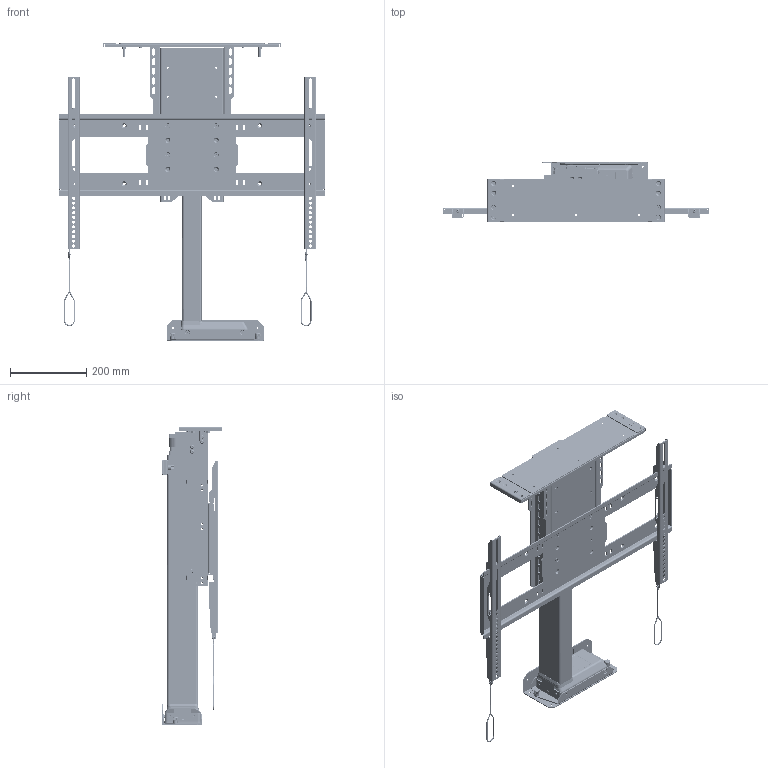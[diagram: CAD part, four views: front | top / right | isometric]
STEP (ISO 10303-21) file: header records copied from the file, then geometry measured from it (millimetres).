
FILE_DESCRIPTION(/* description */ ('STEP AP242','CAx-IF Rec.Pracs.---Representation and Presentation of Product Manufacturing Information (PMI)---4.0---2014-10-13','CAx-IF Rec.Pracs.---3D Tessellated Geometry---0.4---2014-09-14','2;1'),/* implementation_level */ '2;1');
FILE_NAME(/* name */ '63effb74e841dc2814847d16',/* time_stamp */ '2023-02-17T22:11:05+00:00',/* author */ (''),/* organization */ (''),/* preprocessor_version */ 'ST-DEVELOPER v18.102',/* originating_system */ ' ',/* authorisation */ ' ');
FILE_SCHEMA (('AP242_MANAGED_MODEL_BASED_3D_ENGINEERING_MIM_LF { 1 0 10303 442 1 1 4 }'));
Products named in the file (60): L-65/s; Hex socket countersunk head screw M6x1 x 12; Socket button head screw M6x1 x 12; WDS8151-215; Universal Swivel Master Assembly <1>; Socket button head screw M6x1 x 10; SW-NE-005 - SWIVEL TOP PLATE; NEX-SW-001 - DL16 SWIVEL BOTTOM SPACER; SW-NE-002 - SWIVEL BOTTOM PLATE; ULS-NX-108 - ULS SCREEN SUPPORT WELDMENT <1>; PEM CLS-M6-1  ; F-M6-3 M6 PEM NUT; ULS-NX-008 - UL SCREEN SUPPORT SHELL; ULS-NX-009 - ULS SCREEN SUPPORT TOP PLATE <1>; ULS-NX-009 - UL SCREEN SUPPORT TOP PLATE; Lid Plate Assembly W/ Lid Supports <1>; ULS-NX-012 - ULS LID SUPPORT W PEMS <1>; PEM CLS-M6-2  ; UL LID SUPPORT (ULS-NX-012); ULS-NX-012 - ULS LID SUPPORT W PEMS <2>; LID-FL-ULS - ULS Lid Plate Assembly <1>; ULS-NX-006 - Lid Adapter W/ Pin <1>; OLD_ULS-NX-006 - UL LID ADAPTER <1>; ULS-NX-006 - UL LID ADAPTER; FHS-273-24 PEM; FL Sub Asm <1>; 97069A106_Zinc-Plated Steel Spring Lock Washer; Plain washer large grade A M6; Hex socket countersunk head screw M6x1 x 8; ULS-NX-007 - UL LID PLATE EXTENDER; Hex nut grade C M6x1; NEX-LM-032 LID PIN GUIDE; ULS-NX-005 - UL LID PLATE W PEMS <1>; ULS-NX-005 - UL LID PLATE; PEM FHS-M6-15  ; SBP & VMB <1>; PZ Pan head screw M5x0.80 x 25; ULS-NX-017 - UL SCREEN BACK PLATE; Lanyard; ULS-NX-118 - UL VMB WELDMENT <2>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
Assembly tree (176 placements, depth 6):
  L-65/s
    Hex socket countersunk head screw M6x1 x 12  x16
    Socket button head screw M6x1 x 12  x8
    WDS8151-215  x4
    Universal Swivel Master Assembly <1>
      Socket button head screw M6x1 x 10  x4
      SW-NE-005 - SWIVEL TOP PLATE
      NEX-SW-001 - DL16 SWIVEL BOTTOM SPACER
      SW-NE-002 - SWIVEL BOTTOM PLATE
    ULS-NX-108 - ULS SCREEN SUPPORT WELDMENT <1>
      PEM CLS-M6-1    x32
      F-M6-3 M6 PEM NUT
      ULS-NX-008 - UL SCREEN SUPPORT SHELL
      ULS-NX-009 - ULS SCREEN SUPPORT TOP PLATE <1>
        PEM CLS-M6-1    x4
        ULS-NX-009 - UL SCREEN SUPPORT TOP PLATE
    Lid Plate Assembly W/ Lid Supports <1>
      ULS-NX-012 - ULS LID SUPPORT W PEMS <1>
        PEM CLS-M6-2    x2
        UL LID SUPPORT (ULS-NX-012)
      ULS-NX-012 - ULS LID SUPPORT W PEMS <2>
        PEM CLS-M6-2    x2
        UL LID SUPPORT (ULS-NX-012)
      LID-FL-ULS - ULS Lid Plate Assembly <1>
        ULS-NX-006 - Lid Adapter W/ Pin <1>
          OLD_ULS-NX-006 - UL LID ADAPTER <1>
            ULS-NX-006 - UL LID ADAPTER
            FHS-273-24 PEM  x2
        FL Sub Asm <1>
          97069A106_Zinc-Plated Steel Spring Lock Washer  x4
          Plain washer large grade A M6  x4
          Hex socket countersunk head screw M6x1 x 8  x4
          ULS-NX-007 - UL LID PLATE EXTENDER  x2
          Hex nut grade C M6x1  x4
          NEX-LM-032 LID PIN GUIDE  x2
          ULS-NX-005 - UL LID PLATE W PEMS <1>
            PEM CLS-M6-2    x8
            ULS-NX-005 - UL LID PLATE
            PEM FHS-M6-15    x4
    SBP & VMB <1>
      PZ Pan head screw M5x0.80 x 25  x2
      ULS-NX-017 - UL SCREEN BACK PLATE
      Lanyard  x2
      ULS-NX-118 - UL VMB WELDMENT <2>
        Socket button head cap screw #6-32 x 0.188  x2
        VMB Washer  x4
        ULS-NX-019 - UL LEVEL ADJUSTMENT PLATE
        PEM BSO-632-10  ZI  x2
        90107A012  x2
        ULS-NX-018 - UL VERICAL MOUNTING BAR
        ULS-NX-020 - UL SCREEN LOCK
      ULS-NX-118 - UL VMB WELDMENT <1>
        VMB Washer  x4
        Socket button head cap screw #6-32 x 0.188  x2
        PEM BSO-632-10  ZI  x2
        ULS-NX-020 - UL SCREEN LOCK
        ULS-NX-018 - UL VERICAL MOUNTING BAR
        90107A012  x2
        ULS-NX-019 - UL LEVEL ADJUSTMENT PLATE
    L-65 Lower Sub Assembly <1>
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Bounding box: 698.5 x 159.35 x 783.38 mm (x, y, z)
Volume: 8977351.4 mm3; surface area: 1895907.9 mm2
Topology: 158 solids, 158 shells, 10943 faces, 29170 edges, 18902 vertices
Faces by surface type: plane 7528, cylinder 1966, cone 734, bspline 463, torus 214, sphere 38
Full cylindrical faces by diameter (mm): 1.778 x2, 2.032 x14, 2.642 x4, 3.175 x10, 3.505 x4, 4.6 x2, 4.917 x53, 5 x22, 5.004 x4, 5.026 x4, 5.08 x4, 5.277 x8, 5.3 x6, 5.385 x12, 5.41 x8, 5.6 x4, 5.613 x6, 5.944 x4, 5.994 x3, 6 x66, 6.35 x22, 6.4 x4, 6.528 x5, 6.6 x10, 6.604 x4, 6.655 x4, 6.934 x2, 6.976 x1, 7.112 x2, 7.137 x1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
Entity records: 102362 total; most frequent: CARTESIAN_POINT 19782, DIRECTION 16245, ORIENTED_EDGE 15578, EDGE_CURVE 7789, AXIS2_PLACEMENT_3D 5651, VERTEX_POINT 5213, LINE 4943, VECTOR 4943
